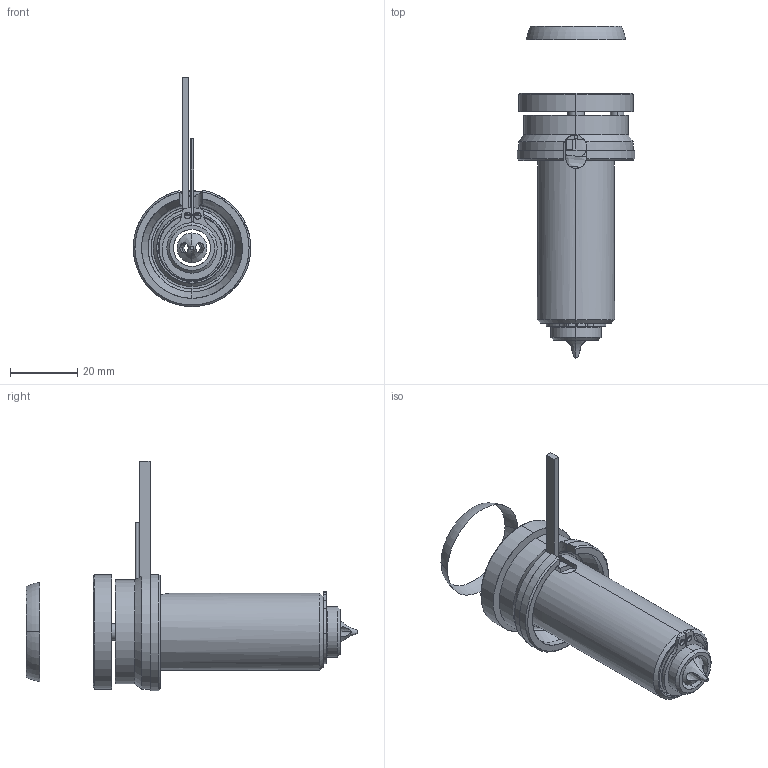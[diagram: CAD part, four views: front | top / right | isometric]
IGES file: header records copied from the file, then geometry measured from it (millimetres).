
Start section: SolidWorks IGES file using analytic representation for surfaces
Global section: file name: C:\Users\luca.EMPAD\Desktop\TEM\UGDL2601-M-A [Øf=1.0 ØC=5.0].IGS; native system: SolidWorks 2012; preprocessor: SolidWorks 2012; author: luca; date: 120330.144825; units: millimetre
Bounding box: 35 x 98.84 x 68.3 mm (x, y, z)
Surface area: 20878.4 mm2 (no closed solid volume)
Topology: 0 solids, 0 shells, 137 faces, 2216 edges, 2212 vertices
Faces by surface type: revolution 78, bspline 59
